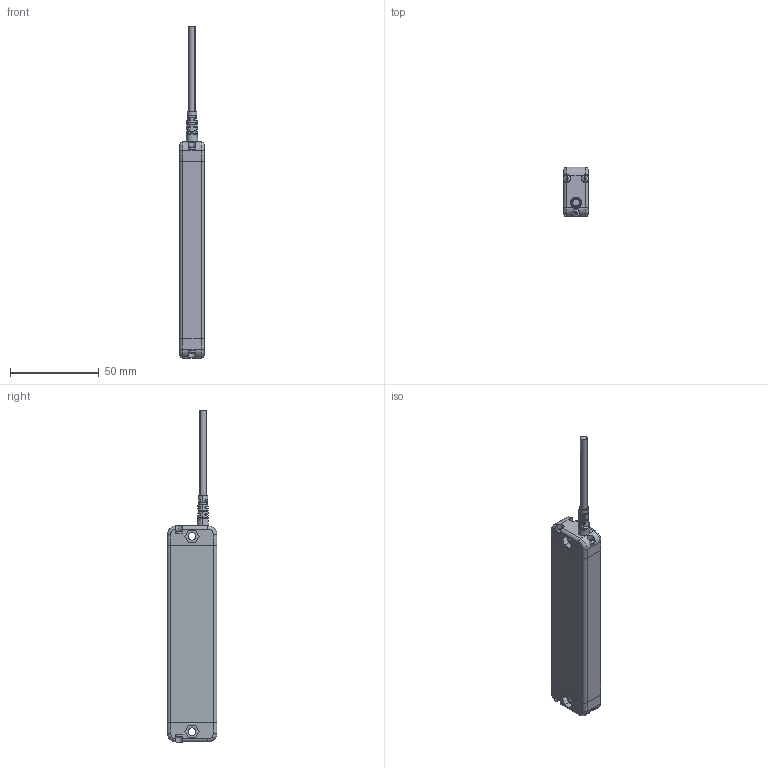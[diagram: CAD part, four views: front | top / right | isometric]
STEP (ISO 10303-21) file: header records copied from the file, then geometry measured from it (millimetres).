
FILE_DESCRIPTION (( 'STEP AP214' ), '1' );
FILE_NAME ('PG3-10RT-6.STEP', '2025-08-19T06:39:41', ( 'Windows User' ), ( 'P R C' ), 'SwSTEP 2.0', 'SolidWorks 2023', '' );
FILE_SCHEMA (( 'AUTOMOTIVE_DESIGN' ));
Length unit declared in the file: millimetre
Products named in the file (3): PG3-10-30; PG3-10RT-6; PG3后端盖
Assembly tree (2 placements, depth 2):
  PG3-10RT-6
    PG3-10-30
    PG3后端盖
Bounding box: 14 x 28 x 187.51 mm (x, y, z)
Volume: 46314.7 mm3; surface area: 14049.2 mm2
Topology: 6 solids, 6 shells, 334 faces, 882 edges, 578 vertices
Faces by surface type: plane 183, cylinder 110, bspline 22, cone 19
Entity records: 11747 total; most frequent: CARTESIAN_POINT 3752, ORIENTED_EDGE 1764, DIRECTION 1504, EDGE_CURVE 882, VERTEX_POINT 578, AXIS2_PLACEMENT_3D 546, VECTOR 412, LINE 412
